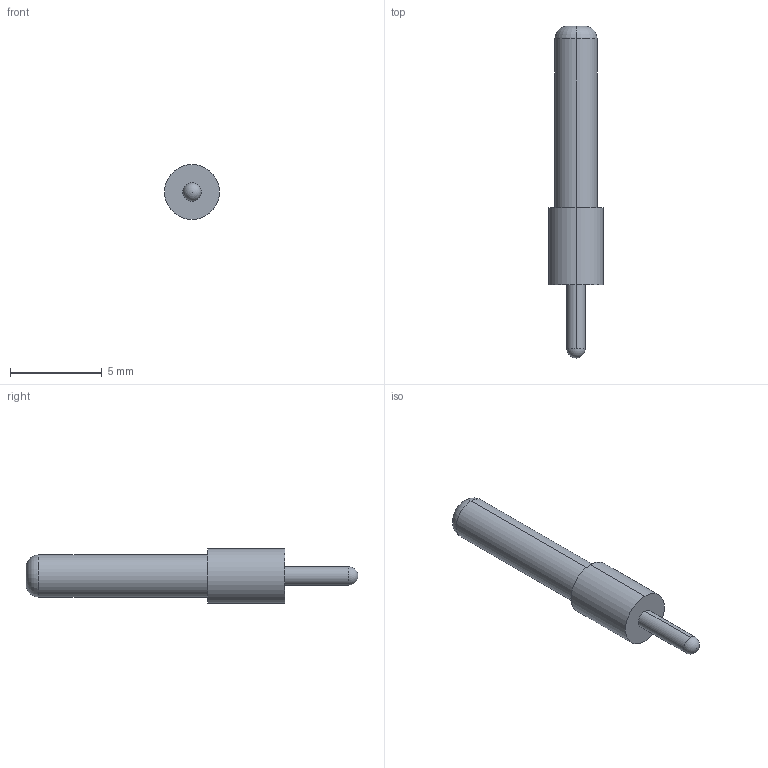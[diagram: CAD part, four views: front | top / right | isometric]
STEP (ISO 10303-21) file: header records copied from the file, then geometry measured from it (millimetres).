
FILE_DESCRIPTION (( 'STEP AP214' ), '1' );
FILE_NAME ('Conector PP50U.STEP', '2018-07-03T08:30:55', ( 'aaa' ), ( '' ), 'SwSTEP 2.0', 'SolidWorks 2013', '' );
FILE_SCHEMA (( 'AUTOMOTIVE_DESIGN' ));
Length unit declared in the file: millimetre
Products named in the file (1): Conector PP50U
Bounding box: 3 x 18.1 x 3 mm (x, y, z)
Volume: 73.2 mm3; surface area: 134.6 mm2
Topology: 1 solids, 1 shells, 12 faces, 25 edges, 16 vertices
Faces by surface type: cylinder 6, plane 3, torus 2, sphere 1
Entity records: 340 total; most frequent: DIRECTION 64, CARTESIAN_POINT 49, ORIENTED_EDGE 44, AXIS2_PLACEMENT_3D 29, EDGE_CURVE 22, CIRCLE 16, VERTEX_POINT 14, EDGE_LOOP 14
